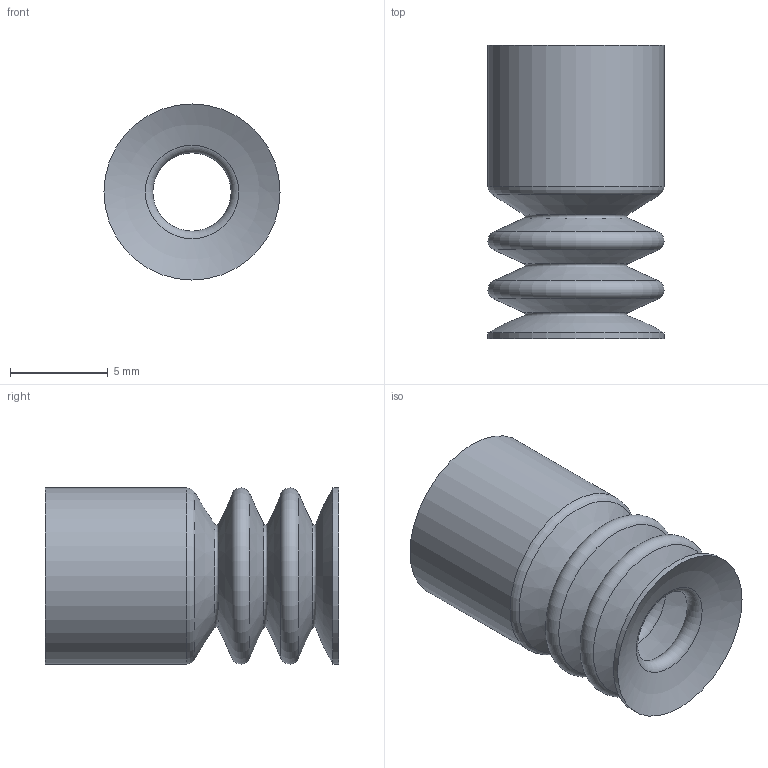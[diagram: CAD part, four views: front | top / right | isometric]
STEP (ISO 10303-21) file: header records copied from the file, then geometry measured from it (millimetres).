
FILE_DESCRIPTION(('STEP AP203'),'1');
FILE_NAME('_3D.stp','2024-06-11T23:21:08',(' '),(' '),'Spatial InterOp 3D',' ',' ');
FILE_SCHEMA(('CONFIG_CONTROL_DESIGN'));
Length unit declared in the file: millimetre
Products named in the file (1): 1
Bounding box: 9 x 15 x 9 mm (x, y, z)
Volume: 485.5 mm3; surface area: 945.7 mm2
Topology: 1 solids, 1 shells, 30 faces, 58 edges, 30 vertices
Faces by surface type: torus 13, cone 9, cylinder 4, sphere 2, plane 2
Full cylindrical faces by diameter (mm): 4 x1, 5 x1, 9 x2
Entity records: 652 total; most frequent: DIRECTION 122, CARTESIAN_POINT 91, AXIS2_PLACEMENT_3D 61, EDGE_LOOP 60, ORIENTED_EDGE 60, FACE_OUTER_BOUND 49, ADVANCED_FACE 30, EDGE_CURVE 30
